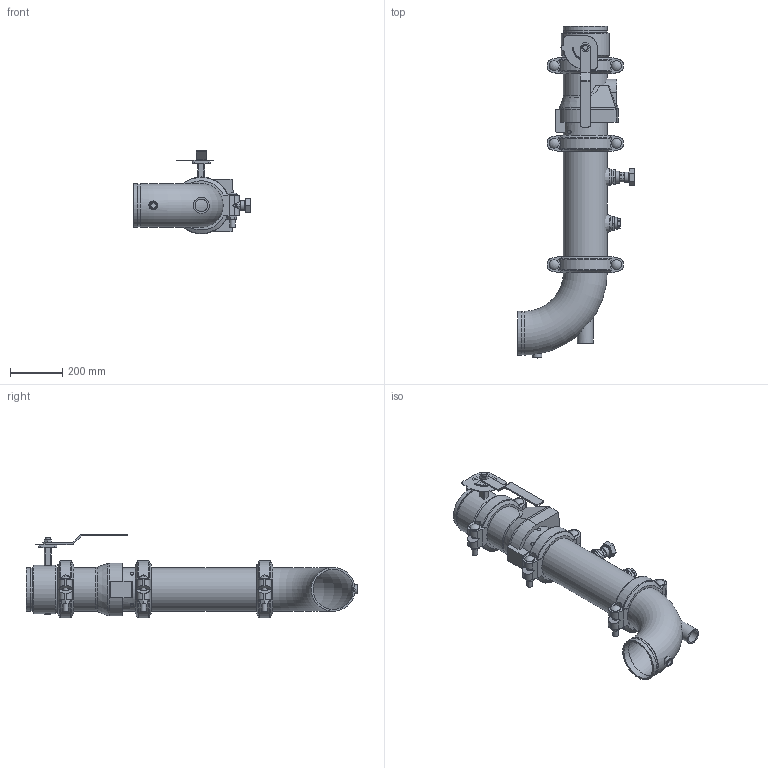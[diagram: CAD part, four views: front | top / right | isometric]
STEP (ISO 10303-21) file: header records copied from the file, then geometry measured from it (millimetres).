
FILE_DESCRIPTION(/* description */ ('VIC DVI PUMP DROP HORZ S/380G (OGSxOGS)','CAx-IF Rec.Pracs.---Representation and Presentation of Product Manufacturing Information (PMI)---4.0---2014-10-13'),/* implementation_level */ '2;1');
FILE_NAME(/* name */ 'C:\Users\kkamble\AppData\Roaming\Autodesk\ApplicationPlugins\Victaulic.Temp\A789\Victaulic_IPS_Horizontal DVI_CL 150_Series 380 (OGSxOGS)_924 (1.25)_06.0x06.0 (150x150).stp',/* time_stamp */ '2021-07-06T09:53:25+05:00',/* author */ ('Vjadhav'),/* organization */ ('Victaulic'),/* preprocessor_version */ 'ST-DEVELOPER v17.2',/* originating_system */ 'Autodesk Inventor 2019',/* authorisation */ '');
FILE_SCHEMA (('AP242_MANAGED_MODEL_BASED_3D_ENGINEERING_MIM_LF { 1 0 10303 442 1 1 4 }'));
Length unit declared in the file: inch
Products named in the file (8): 380_924 (01.25)-06.0x06.0; Pipe-06.0x06.0; 761-06.0; 177N-06.0; 924-04.0x01.25; 923-04.0x0.75; 779-06.0; 100G-06.0
Assembly tree (9 placements, depth 2):
  380_924 (01.25)-06.0x06.0
    177N-06.0  x3
    Pipe-06.0x06.0
    761-06.0
    924-04.0x01.25
    923-04.0x0.75
    779-06.0
    100G-06.0
Bounding box: 449.14 x 1276.35 x 322.45 mm (x, y, z)
Volume: 11350599.7 mm3; surface area: 2096470.9 mm2
Topology: 9 solids, 11 shells, 607 faces, 1565 edges, 1046 vertices
Faces by surface type: plane 352, cylinder 208, torus 21, cone 18, sphere 6, bspline 2
Full cylindrical faces by diameter (mm): 4.826 x10, 8.636 x4, 13.716 x4, 19.05 x2, 20.93 x1, 21.209 x6, 21.336 x1, 22.86 x1, 26.67 x4, 34.29 x1, 37.694 x6, 38.608 x1, 42.164 x1, 45.974 x4, 48.26 x1, 48.514 x1, 55.118 x1, 55.626 x2, 60.96 x1, 154.051 x5, 155.575 x3, 163.957 x8, 168.275 x19, 185.42 x1
Entity records: 14294 total; most frequent: CARTESIAN_POINT 3055, DIRECTION 2311, ORIENTED_EDGE 2110, EDGE_CURVE 1055, AXIS2_PLACEMENT_3D 878, VERTEX_POINT 710, LINE 555, VECTOR 555
